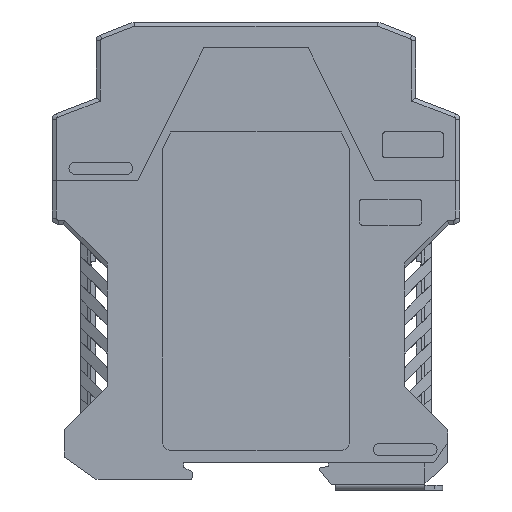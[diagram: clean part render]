
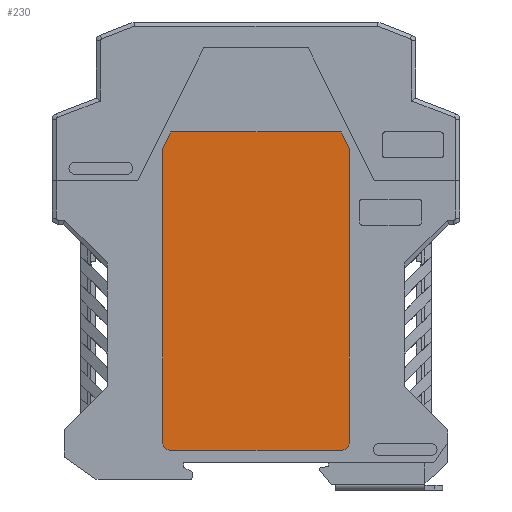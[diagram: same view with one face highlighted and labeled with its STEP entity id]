
A CAD part, left-side view. The second image highlights one B-rep face of the part: STEP entity #230.
In plain terms, the highlighted planar face has unit normal (-1, 0, 0).
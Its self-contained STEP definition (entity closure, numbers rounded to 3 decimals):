
#230=ADVANCED_FACE('',(#2172),#2173,.T.);
#2172=FACE_OUTER_BOUND('',#6035,.T.);
#2173=PLANE('',#6036);
#6035=EDGE_LOOP('',(#10251,#10252,#10253,#10254,#10255,#10256,#10257,#10258));
#6036=AXIS2_PLACEMENT_3D('',#10259,#10260,#10261);
#10251=ORIENTED_EDGE('',*,*,#26370,.T.);
#10252=ORIENTED_EDGE('',*,*,#26367,.T.);
#10253=ORIENTED_EDGE('',*,*,#26361,.T.);
#10254=ORIENTED_EDGE('',*,*,#26363,.F.);
#10255=ORIENTED_EDGE('',*,*,#26376,.T.);
#10256=ORIENTED_EDGE('',*,*,#26372,.F.);
#10257=ORIENTED_EDGE('',*,*,#26377,.T.);
#10258=ORIENTED_EDGE('',*,*,#26378,.T.);
#10259=CARTESIAN_POINT('',(-149.45,890.324,121.584));
#10260=DIRECTION('',(-1.0,0.,0.));
#10261=DIRECTION('',(0.,0.0,1.0));
#26361=EDGE_CURVE('',#31864,#31868,#31870,.T.);
#26363=EDGE_CURVE('',#31872,#31868,#31874,.T.);
#26367=EDGE_CURVE('',#31877,#31864,#31880,.T.);
#26370=EDGE_CURVE('',#31882,#31877,#31885,.T.);
#26372=EDGE_CURVE('',#31887,#31889,#31890,.T.);
#26376=EDGE_CURVE('',#31872,#31889,#31895,.T.);
#26377=EDGE_CURVE('',#31887,#31896,#31897,.T.);
#26378=EDGE_CURVE('',#31896,#31882,#31898,.T.);
#31864=VERTEX_POINT('',#40921);
#31868=VERTEX_POINT('',#40927);
#31870=LINE('',#40930,#40931);
#31872=VERTEX_POINT('',#40933);
#31874=CIRCLE('',#40936,2.0);
#31877=VERTEX_POINT('',#40939);
#31880=LINE('',#40944,#40945);
#31882=VERTEX_POINT('',#40947);
#31885=LINE('',#40952,#40953);
#31887=VERTEX_POINT('',#40955);
#31889=VERTEX_POINT('',#40958);
#31890=CIRCLE('',#40959,2.0);
#31895=LINE('',#40966,#40967);
#31896=VERTEX_POINT('',#40968);
#31897=LINE('',#40969,#40970);
#31898=LINE('',#40971,#40972);
#40921=CARTESIAN_POINT('',(-149.45,947.864,131.609));
#40927=CARTESIAN_POINT('',(-149.45,947.864,60.309));
#40930=CARTESIAN_POINT('',(-149.45,947.864,47.309));
#40931=VECTOR('',#54179,1.0);
#40933=CARTESIAN_POINT('',(-149.45,945.864,58.309));
#40936=AXIS2_PLACEMENT_3D('',#54181,#54182,#54183);
#40939=CARTESIAN_POINT('',(-149.45,945.864,135.609));
#40944=CARTESIAN_POINT('',(-149.45,977.054,73.229));
#40945=VECTOR('',#54189,1.0);
#40947=CARTESIAN_POINT('',(-149.45,904.564,135.609));
#40952=CARTESIAN_POINT('',(-149.45,925.214,135.609));
#40953=VECTOR('',#54192,1.0);
#40955=CARTESIAN_POINT('',(-149.45,902.564,60.309));
#40958=CARTESIAN_POINT('',(-149.45,904.564,58.309));
#40959=AXIS2_PLACEMENT_3D('',#54194,#54195,#54196);
#40966=CARTESIAN_POINT('',(-149.45,925.214,58.309));
#40967=VECTOR('',#54202,1.0);
#40968=CARTESIAN_POINT('',(-149.45,902.564,131.609));
#40969=CARTESIAN_POINT('',(-149.45,902.564,47.309));
#40970=VECTOR('',#54203,1.0);
#40971=CARTESIAN_POINT('',(-149.45,873.374,73.229));
#40972=VECTOR('',#54204,1.0);
#54179=DIRECTION('',(0.,0.,-1.0));
#54181=CARTESIAN_POINT('',(-149.45,945.864,60.309));
#54182=DIRECTION('',(1.0,0.,0.));
#54183=DIRECTION('',(0.,1.0,0.));
#54189=DIRECTION('',(0.,0.447,-0.894));
#54192=DIRECTION('',(0.,1.0,0.));
#54194=CARTESIAN_POINT('',(-149.45,904.564,60.309));
#54195=DIRECTION('',(1.0,0.,0.));
#54196=DIRECTION('',(0.,1.0,0.));
#54202=DIRECTION('',(0.,-1.0,0.));
#54203=DIRECTION('',(0.,0.,1.0));
#54204=DIRECTION('',(0.,0.447,0.894));
